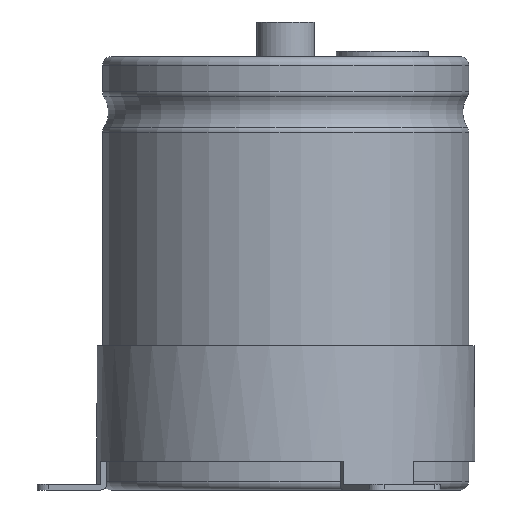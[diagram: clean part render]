
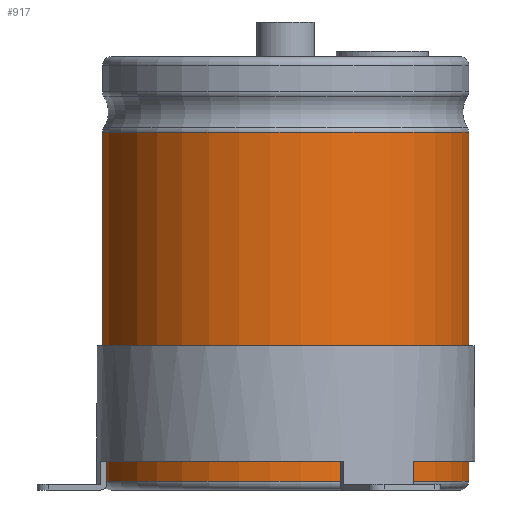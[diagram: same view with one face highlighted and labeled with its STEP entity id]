
A CAD part, front view. The second image highlights one B-rep face of the part: STEP entity #917.
In plain terms, the highlighted cylindrical face has radius 31.75 mm (diameter 63.5 mm), a partial arc.
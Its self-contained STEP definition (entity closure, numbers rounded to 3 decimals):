
#917=ADVANCED_FACE('',(#1213),#1039,.T.);
#1039=CYLINDRICAL_SURFACE('',#4878,31.75);
#1213=FACE_OUTER_BOUND('',#1474,.T.);
#1474=EDGE_LOOP('',(#2748,#2749,#2750,#2751));
#1758=CIRCLE('',#4875,31.75);
#1759=CIRCLE('',#4877,31.75);
#2748=ORIENTED_EDGE('',*,*,#3929,.T.);
#2749=ORIENTED_EDGE('',*,*,#3930,.T.);
#2750=ORIENTED_EDGE('',*,*,#3931,.F.);
#2751=ORIENTED_EDGE('',*,*,#3932,.F.);
#3366=VERTEX_POINT('',#7964);
#3368=VERTEX_POINT('',#7968);
#3369=VERTEX_POINT('',#7972);
#3370=VERTEX_POINT('',#7974);
#3929=EDGE_CURVE('',#3366,#3368,#1758,.T.);
#3930=EDGE_CURVE('',#3368,#3369,#4255,.T.);
#3931=EDGE_CURVE('',#3370,#3369,#1759,.T.);
#3932=EDGE_CURVE('',#3366,#3370,#4256,.T.);
#4255=LINE('',#7971,#4469);
#4256=LINE('',#7975,#4470);
#4469=VECTOR('',#5936,1.);
#4470=VECTOR('',#5939,1.);
#4875=AXIS2_PLACEMENT_3D('',#7969,#5932,#5933);
#4877=AXIS2_PLACEMENT_3D('',#7973,#5937,#5938);
#4878=AXIS2_PLACEMENT_3D('',#7976,#5940,#5941);
#5932=DIRECTION('',(0.,0.,-1.));
#5933=DIRECTION('',(0.,1.,0.));
#5936=DIRECTION('',(0.,0.,-1.));
#5937=DIRECTION('',(0.,0.,-1.));
#5938=DIRECTION('',(0.,1.,0.));
#5939=DIRECTION('',(0.,0.,-1.));
#5940=DIRECTION('',(0.,0.,-1.));
#5941=DIRECTION('',(0.,1.,0.));
#7964=CARTESIAN_POINT('',(4.007,31.496,61.9));
#7968=CARTESIAN_POINT('',(-4.007,31.496,61.9));
#7969=CARTESIAN_POINT('',(0.,0.,61.9));
#7971=CARTESIAN_POINT('',(-4.007,31.496,61.9));
#7972=CARTESIAN_POINT('',(-4.007,31.496,1.5));
#7973=CARTESIAN_POINT('',(0.,0.,1.5));
#7974=CARTESIAN_POINT('',(4.007,31.496,1.5));
#7975=CARTESIAN_POINT('',(4.007,31.496,61.9));
#7976=CARTESIAN_POINT('',(0.,0.,0.));
